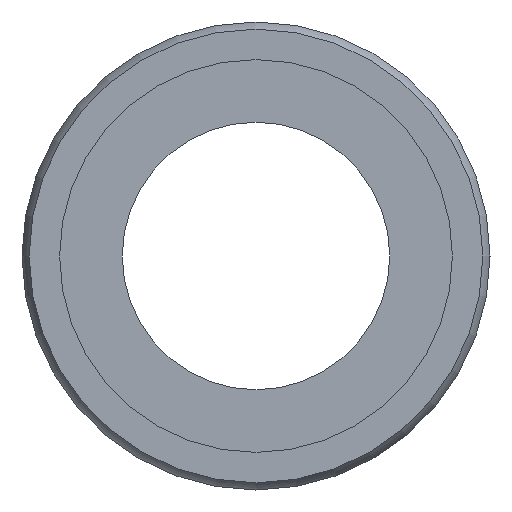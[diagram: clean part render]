
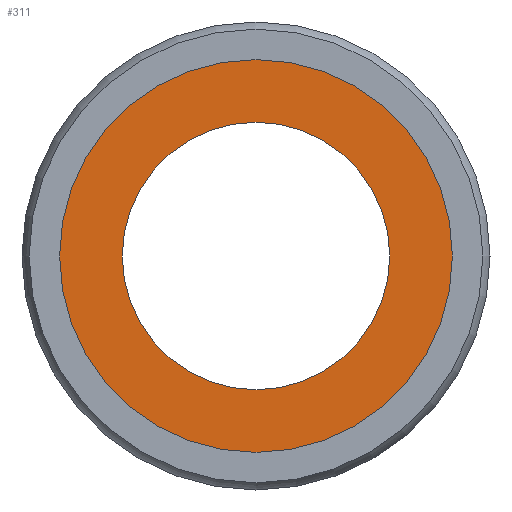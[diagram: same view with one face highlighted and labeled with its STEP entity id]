
A CAD part, left-side view. The second image highlights one B-rep face of the part: STEP entity #311.
In plain terms, the highlighted planar face has unit normal (-1, 0, 0).
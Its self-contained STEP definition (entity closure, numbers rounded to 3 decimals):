
#277=CARTESIAN_POINT('',(0.1,0.0,11.75));
#278=VERTEX_POINT('',#277);
#279=CARTESIAN_POINT('',(0.1,0.0,0.));
#280=DIRECTION('',(-1.0,0.0,0.0));
#281=DIRECTION('',(0.0,0.0,1.0));
#282=AXIS2_PLACEMENT_3D('',#279,#280,#281);
#283=CIRCLE('',#282,11.75);
#284=EDGE_CURVE('',#278,#278,#283,.T.);
#292=CARTESIAN_POINT('',(0.1,0.0,9.875));
#293=DIRECTION('',(-1.0,0.0,0.0));
#294=DIRECTION('',(0.0,0.0,1.0));
#295=AXIS2_PLACEMENT_3D('',#292,#293,#294);
#296=PLANE('',#295);
#297=ORIENTED_EDGE('',*,*,#284,.T.);
#298=EDGE_LOOP('',(#297));
#299=FACE_OUTER_BOUND('',#298,.T.);
#300=CARTESIAN_POINT('',(0.1,0.0,8.));
#301=VERTEX_POINT('',#300);
#302=CARTESIAN_POINT('',(0.1,0.0,0.));
#303=DIRECTION('',(-1.0,0.0,0.0));
#304=DIRECTION('',(0.0,0.0,1.0));
#305=AXIS2_PLACEMENT_3D('',#302,#303,#304);
#306=CIRCLE('',#305,8.);
#307=EDGE_CURVE('',#301,#301,#306,.T.);
#308=ORIENTED_EDGE('',*,*,#307,.F.);
#309=EDGE_LOOP('',(#308));
#310=FACE_BOUND('',#309,.T.);
#311=ADVANCED_FACE('',(#299,#310),#296,.T.);
